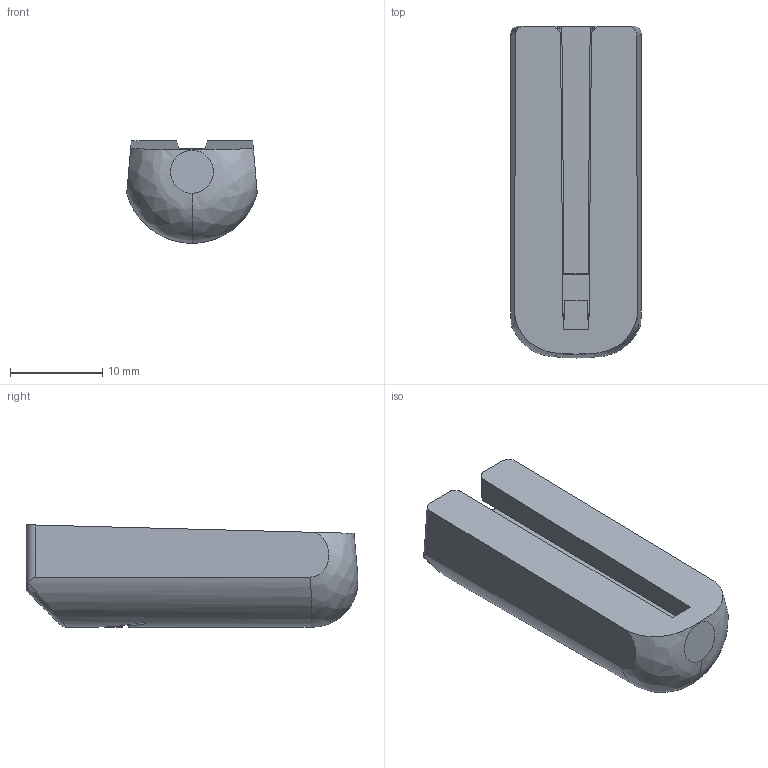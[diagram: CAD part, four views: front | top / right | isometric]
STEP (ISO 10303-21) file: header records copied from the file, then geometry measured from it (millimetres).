
FILE_DESCRIPTION (( 'STEP AP203' ), '1' );
FILE_NAME ('00017836 - FINGER TIP 3 HEMISPHERICAL.step', '2013-04-05T16:24:54', ( '' ), ( '' ), 'SwSTEP 2.0', 'SolidWorks 2012', '' );
FILE_SCHEMA (( 'CONFIG_CONTROL_DESIGN' ));
Length unit declared in the file: millimetre
Products named in the file (1): 00017836 - FINGER TIP 3 HEMISPHERICAL
Bounding box: 14.17 x 36.04 x 11.13 mm (x, y, z)
Volume: 3268.2 mm3; surface area: 2491.7 mm2
Topology: 1 solids, 1 shells, 105 faces, 285 edges, 178 vertices
Faces by surface type: cylinder 48, plane 35, bspline 18, sphere 4
Entity records: 3739 total; most frequent: CARTESIAN_POINT 1423, ORIENTED_EDGE 562, DIRECTION 364, EDGE_CURVE 281, VERTEX_POINT 178, LINE 122, VECTOR 122, AXIS2_PLACEMENT_3D 121
